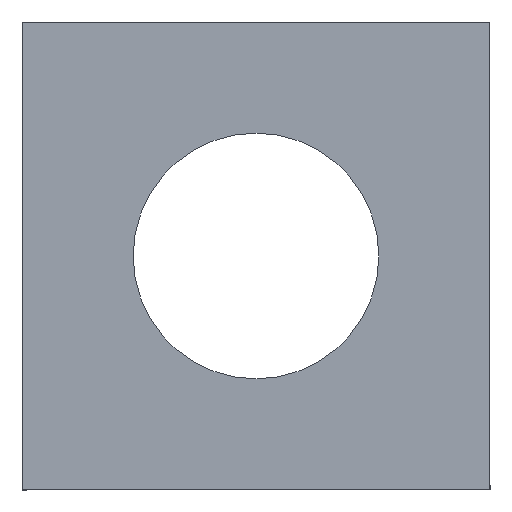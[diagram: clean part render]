
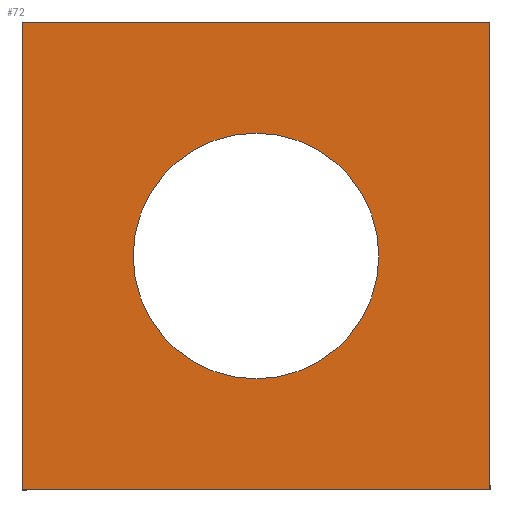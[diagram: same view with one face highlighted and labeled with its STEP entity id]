
A CAD part, front view. The second image highlights one B-rep face of the part: STEP entity #72.
In plain terms, the highlighted planar face has unit normal (0, -1, 0).
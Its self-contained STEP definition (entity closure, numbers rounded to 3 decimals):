
#4 = EDGE_CURVE ( 'NONE', #240, #235, #165, .T. ) ;
#5 = EDGE_CURVE ( 'NONE', #204, #200, #161, .T. ) ;
#23 = EDGE_CURVE ( 'NONE', #235, #242, #158, .T. ) ;
#37 = AXIS2_PLACEMENT_3D ( 'NONE', #378, #364, #363 ) ;
#41 = EDGE_CURVE ( 'NONE', #239, #240, #157, .T. ) ;
#42 = AXIS2_PLACEMENT_3D ( 'NONE', #376, #375, #374 ) ;
#48 = AXIS2_PLACEMENT_3D ( 'NONE', #278, #282, #279 ) ;
#55 = EDGE_CURVE ( 'NONE', #242, #239, #148, .T. ) ;
#62 = EDGE_CURVE ( 'NONE', #200, #204, #138, .T. ) ;
#72 = ADVANCED_FACE ( 'NONE', ( #132, #129 ), #366, .T. ) ;
#129 = FACE_OUTER_BOUND ( 'NONE', #175, .T. ) ;
#132 = FACE_BOUND ( 'NONE', #170, .T. ) ;
#138 = CIRCLE ( 'NONE', #42, 2.1 ) ;
#146 = VECTOR ( 'NONE', #400, 1000. ) ;
#148 = LINE ( 'NONE', #409, #146 ) ;
#154 = VECTOR ( 'NONE', #286, 1000. ) ;
#155 = VECTOR ( 'NONE', #265, 1000. ) ;
#157 = LINE ( 'NONE', #267, #155 ) ;
#158 = LINE ( 'NONE', #280, #154 ) ;
#160 = VECTOR ( 'NONE', #277, 1000. ) ;
#161 = CIRCLE ( 'NONE', #48, 2.1 ) ;
#165 = LINE ( 'NONE', #274, #160 ) ;
#170 = EDGE_LOOP ( 'NONE', ( #208, #220 ) ) ;
#175 = EDGE_LOOP ( 'NONE', ( #221, #206, #226, #231 ) ) ;
#200 = VERTEX_POINT ( 'NONE', #335 ) ;
#204 = VERTEX_POINT ( 'NONE', #333 ) ;
#206 = ORIENTED_EDGE ( 'NONE', *, *, #23, .F. ) ;
#208 = ORIENTED_EDGE ( 'NONE', *, *, #62, .F. ) ;
#220 = ORIENTED_EDGE ( 'NONE', *, *, #5, .F. ) ;
#221 = ORIENTED_EDGE ( 'NONE', *, *, #55, .F. ) ;
#226 = ORIENTED_EDGE ( 'NONE', *, *, #4, .F. ) ;
#231 = ORIENTED_EDGE ( 'NONE', *, *, #41, .F. ) ;
#235 = VERTEX_POINT ( 'NONE', #338 ) ;
#239 = VERTEX_POINT ( 'NONE', #324 ) ;
#240 = VERTEX_POINT ( 'NONE', #325 ) ;
#242 = VERTEX_POINT ( 'NONE', #329 ) ;
#265 = DIRECTION ( 'NONE',  ( -1., 0., 0. ) ) ;
#267 = CARTESIAN_POINT ( 'NONE',  ( -4., 0., -4. ) ) ;
#274 = CARTESIAN_POINT ( 'NONE',  ( -4., 0., 4. ) ) ;
#277 = DIRECTION ( 'NONE',  ( 0., 0., 1. ) ) ;
#278 = CARTESIAN_POINT ( 'NONE',  ( 0., 0., 0. ) ) ;
#279 = DIRECTION ( 'NONE',  ( 0., 0., -1. ) ) ;
#280 = CARTESIAN_POINT ( 'NONE',  ( -4., 0., 4. ) ) ;
#282 = DIRECTION ( 'NONE',  ( 0., -1., 0. ) ) ;
#286 = DIRECTION ( 'NONE',  ( 1., 0., 0. ) ) ;
#324 = CARTESIAN_POINT ( 'NONE',  ( 4., 0., -4. ) ) ;
#325 = CARTESIAN_POINT ( 'NONE',  ( -4., 0., -4. ) ) ;
#329 = CARTESIAN_POINT ( 'NONE',  ( 4., 0., 4. ) ) ;
#333 = CARTESIAN_POINT ( 'NONE',  ( 0., 0., -2.1 ) ) ;
#335 = CARTESIAN_POINT ( 'NONE',  ( 0., 0., 2.1 ) ) ;
#338 = CARTESIAN_POINT ( 'NONE',  ( -4., 0., 4. ) ) ;
#363 = DIRECTION ( 'NONE',  ( 0., 0., -1. ) ) ;
#364 = DIRECTION ( 'NONE',  ( 0., -1., 0. ) ) ;
#366 = PLANE ( 'NONE',  #37 ) ;
#374 = DIRECTION ( 'NONE',  ( 0., 0., -1. ) ) ;
#375 = DIRECTION ( 'NONE',  ( 0., -1., 0. ) ) ;
#376 = CARTESIAN_POINT ( 'NONE',  ( 0., 0., 0. ) ) ;
#378 = CARTESIAN_POINT ( 'NONE',  ( 0., 0., 0. ) ) ;
#400 = DIRECTION ( 'NONE',  ( 0., 0., -1. ) ) ;
#409 = CARTESIAN_POINT ( 'NONE',  ( 4., 0., 4. ) ) ;
